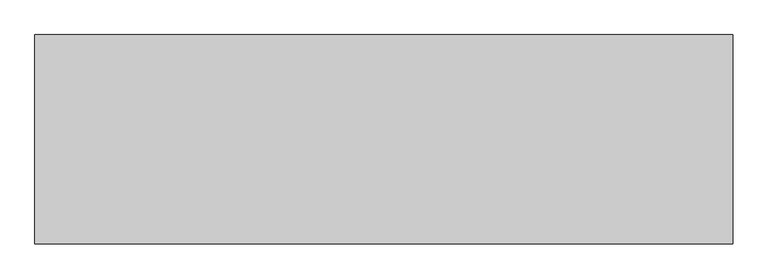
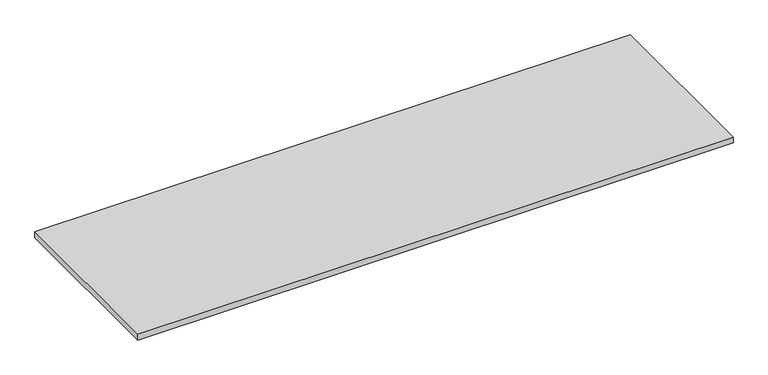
"""IFC4 building model written with IfcOpenShell, lengths in millimetres: furniture geometry, Bancada_balcao : Bancada cantina."""

from ifc_helpers import new_model, si_unit, frame, origin, place, context, project, spatial, polyline, outline, extrude, source, transform, mapped, element, save


def furniture_29a2d88c(model_context):
    return source(origin(), model_context, "Body", "SweptSolid", [
        extrude(outline(polyline([(1044.7003264, 0.0), (1044.7003264, -600.0), (-955.2996736, -600.0), (-955.2996736, 0.0), (1044.7003264, 0.0)])), frame((0.0, 0.0, 880.0), z_axis=(0.0, 0.0, 1.0), x_axis=(1.0, 0.0, 0.0)), (0.0, 0.0, 1.0), 20.0),
    ])


if __name__ == "__main__":
    model = new_model("IFC4")
    model_context = context("Model", 3, world=origin())
    ifc_project = project(units=[si_unit("LENGTHUNIT", "METRE", prefix="MILLI")], contexts=[model_context])
    site = spatial("IfcSite", under=ifc_project)
    building = spatial("IfcBuilding", under=site)
    placement = place(None, origin())
    furniture_shape = furniture_29a2d88c(model_context)
    element("IfcFurniture", 1, ObjectType="Bancada_balcao : Bancada cantina", at=placement, inside=building, context=model_context, shape_type="MappedRepresentation", body=[
        mapped(furniture_shape, transform((0.0, 0.0, 0.0), x_axis=(1.0, 0.0, 0.0), y_axis=(0.0, 1.0, 0.0), z_axis=(0.0, 0.0, 1.0))),
    ])
    save(model, "model.ifc")
